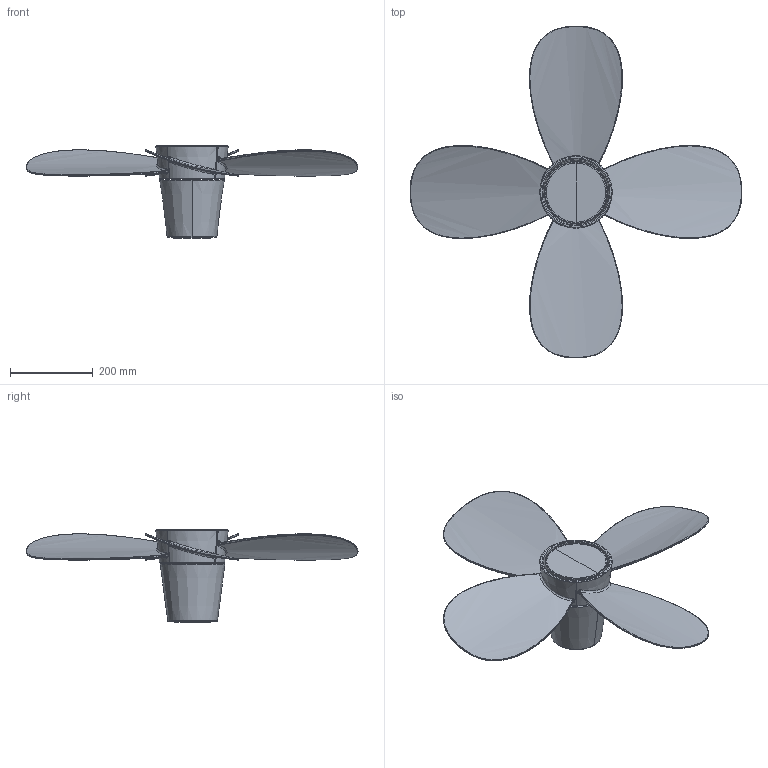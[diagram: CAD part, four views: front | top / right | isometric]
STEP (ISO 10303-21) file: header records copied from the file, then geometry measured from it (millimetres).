
FILE_DESCRIPTION(/* description */ (''),/* implementation_level */ '2;1');
FILE_NAME(/* name */ '34315.step',/* time_stamp */ '2024-09-10T10:33:22+02:00',/* author */ ('RenataManzini'),/* organization */ (''),/* preprocessor_version */ 'ST-DEVELOPER v20',/* originating_system */ 'AutoCAD Mechanical',/* authorisation */ '');
FILE_SCHEMA (('AUTOMOTIVE_DESIGN { 1 0 10303 214 3 1 1 }'));
Length unit declared in the file: millimetre
Products named in the file (2): Product; Klover_S - fan-530070-_3D_
Assembly tree (1 placements, depth 2):
  Product
    Klover_S - fan-530070-_3D_
Bounding box: 800.45 x 800.45 x 223.2 mm (x, y, z)
Volume: 803984.4 mm3; surface area: 896214.8 mm2
Topology: 2 solids, 6 shells, 332 faces, 1027 edges, 705 vertices
Faces by surface type: cylinder 92, plane 82, bspline 80, torus 62, cone 16
Entity records: 26826 total; most frequent: CARTESIAN_POINT 19004, ORIENTED_EDGE 1960, DIRECTION 1030, EDGE_CURVE 1024, VERTEX_POINT 700, B_SPLINE_CURVE_WITH_KNOTS 641, AXIS2_PLACEMENT_3D 397, EDGE_LOOP 364
